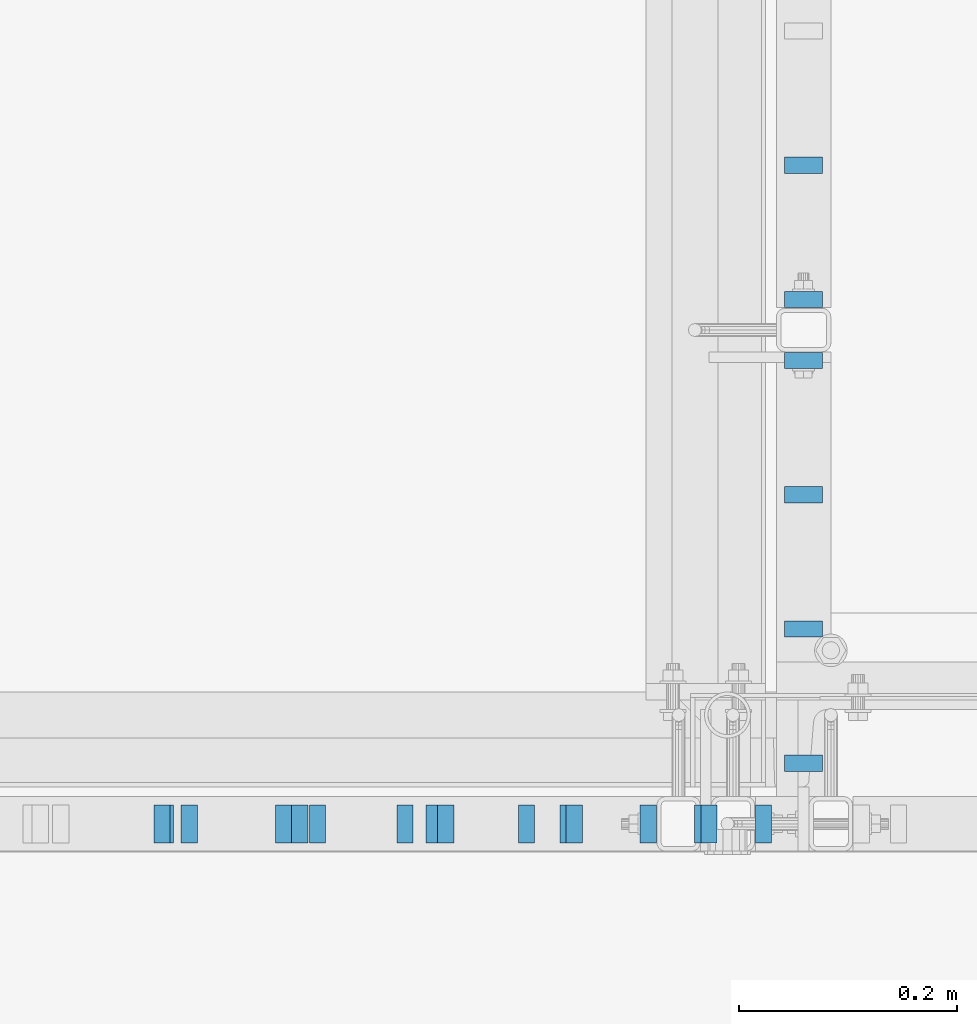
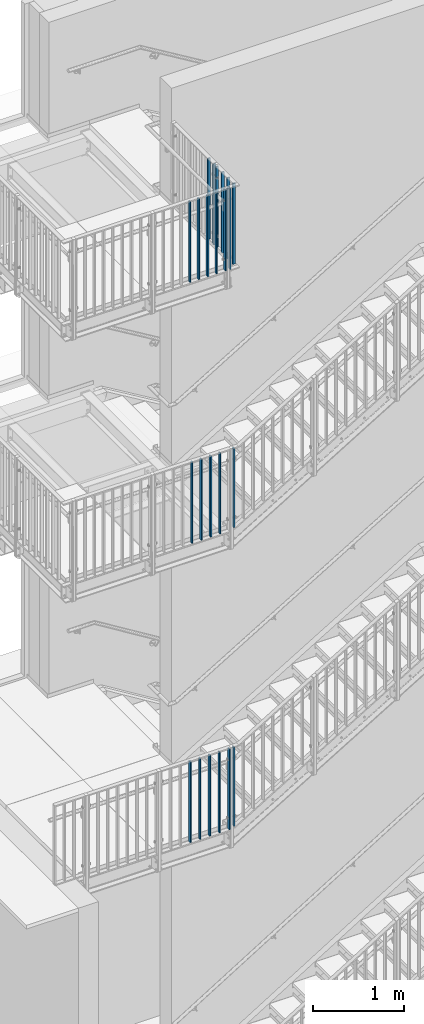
# One storey, part 6 of 410: 23 columns, 14 openings.
"""IFC2X3 building model written with IfcOpenShell, lengths in millimetres."""

from ifc_helpers import new_model, entity, si_unit, converted_unit, frame, frame_2d, origin, origin_with_axes, origin_2d, place, context, project, spatial, rectangle, circle, extrude, material, element, save


model = new_model("IFC2X3")

# Units and contexts
model_context = context("Model", 3, precision=1e-09, world=origin_with_axes())
ifc_project = project(units=[si_unit("LENGTHUNIT", "METRE", prefix="MILLI"), si_unit("AREAUNIT", "SQUARE_METRE"), si_unit("VOLUMEUNIT", "CUBIC_METRE"), converted_unit("PLANEANGLEUNIT", "DEGREE", entity("IfcPlaneAngleMeasure", 0.01745329), si_unit("PLANEANGLEUNIT", "RADIAN"), dimensions=[0, 0, 0, 0, 0, 0, 0])], contexts=[model_context])

# Site, building, storey
site_placement = place(None, origin_with_axes())
site = spatial("IfcSite", under=ifc_project, at=site_placement, Name="mKR Teilneubau & Sanierung BA1 - Ostfildern", CompositionType="ELEMENT")
building_placement = place(site_placement, origin_with_axes())
building = spatial("IfcBuilding", under=site, at=building_placement, Name="Struktur 1", CompositionType="ELEMENT")
storey_placement = place(building_placement, origin_with_axes())
storey = spatial("IfcBuildingStorey", under=building, at=storey_placement, Name="Default Storey", CompositionType="ELEMENT", Elevation=0.0)

# Columns
ifc_material = material(Name="S235JR")
for number, where, z_axis, x_axis in (
    (1, (-1930.99853167, 15405.999999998, 5085.0), (0.0, 0.0, 1.0), (-1.0, 0.0, 0.0)),
    (2, (-2048.99853167, 15405.999999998, 5085.0), (0.0, 0.0, 1.0), (-1.0, 0.0, 0.0)),
    (3, (-2166.99853167, 15405.999999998, 5085.0), (0.0, 0.0, 1.0), (-1.0, 0.0, 0.0)),
    (4, (-2284.99853167, 15405.999999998, 5085.0), (0.0, 0.0, 1.0), (-1.0, 0.0, 0.0)),
):
    element("IfcColumn", number, at=place(None, frame(where, z_axis=z_axis, x_axis=x_axis)), inside=storey, material=ifc_material, Name="-", ObjectType="-", context=model_context, shape_type="SweptSolid", body=[
        extrude(rectangle(XDim=15.0, YDim=35.0, at=origin_2d()), origin(), (0.0, 0.0, -1.0), 1085.0),
    ])

# Column, openings
column_1_placement = place(None, frame((-1862.99853167, 15405.999999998, 8585.0), z_axis=(0.0, 0.0, 1.0), x_axis=(-1.0, 0.0, 0.0)))
column_1 = element("IfcColumn", 5, at=column_1_placement, inside=storey, material=ifc_material, Name="-", ObjectType="-", context=model_context, shape_type="SweptSolid", body=[
    extrude(rectangle(XDim=15.0, YDim=35.0, at=origin_2d()), origin(), (0.0, 0.0, -1.0), 1085.0),
])
opening_1_placement = place(column_1_placement, frame((8.0, 0.0, 10.0), z_axis=(-1.0, 0.0, 0.0), x_axis=(0.0, 1.0, 0.0)))
element("IfcOpeningElement", 6, at=opening_1_placement, cuts=column_1, ObjectType="Opening", context=model_context, shape_type="SweptSolid", body=[
    extrude(circle(Radius=6.001, at=frame_2d((0.0, 945.0), x_axis=(1.0, 0.0))), origin(), (0.0, 0.0, 1.0), 16.0),
])
opening_2_placement = place(column_1_placement, frame((8.0, 0.0, 10.0), z_axis=(-1.0, 0.0, 0.0), x_axis=(0.0, 1.0, 0.0)))
element("IfcOpeningElement", 7, at=opening_2_placement, cuts=column_1, ObjectType="Opening", context=model_context, shape_type="SweptSolid", body=[
    extrude(circle(Radius=6.001, at=frame_2d((0.0, 160.0), x_axis=(1.0, 0.0))), origin(), (0.0, 0.0, 1.0), 16.0),
])

column_2_placement = place(None, frame((-1720.0485317, 15888.0, 7500.0), z_axis=(0.0, 0.0, -1.0), x_axis=(0.0, 1.0, 0.0)))
column_2 = element("IfcColumn", 8, at=column_2_placement, inside=storey, material=ifc_material, Name="-", ObjectType="-", context=model_context, shape_type="SweptSolid", body=[
    extrude(rectangle(XDim=15.0, YDim=35.0, at=origin_2d()), origin(), (0.0, 0.0, -1.0), 1085.0),
])
opening_3_placement = place(column_2_placement, frame((8.0, -6.001, -150.0), z_axis=(1.0, 0.0, 0.0), x_axis=(0.0, 1.0, 0.0)))
element("IfcOpeningElement", 9, at=opening_3_placement, cuts=column_2, ObjectType="Opening", context=model_context, shape_type="SweptSolid", body=[
    extrude(circle(Radius=6.001, at=frame_2d((6.001, 0.0), x_axis=(1.0, 0.0))), origin(), (0.0, 0.0, -1.0), 16.0),
])
opening_4_placement = place(column_2_placement, frame((8.0, -6.001, -935.0), z_axis=(1.0, 0.0, 0.0), x_axis=(0.0, 1.0, 0.0)))
element("IfcOpeningElement", 10, at=opening_4_placement, cuts=column_2, ObjectType="Opening", context=model_context, shape_type="SweptSolid", body=[
    extrude(circle(Radius=6.001, at=frame_2d((6.001, 0.0), x_axis=(1.0, 0.0))), origin(), (0.0, 0.0, -1.0), 16.0),
])

# Column
column_3_placement = place(None, frame((-1720.0485317, 16011.4285714, 7500.0), z_axis=(0.0, 0.0, -1.0), x_axis=(0.0, 1.0, 0.0)))
element("IfcColumn", 11, at=column_3_placement, inside=storey, material=ifc_material, Name="-", ObjectType="-", context=model_context, shape_type="SweptSolid", body=[
    extrude(rectangle(XDim=15.0, YDim=35.0, at=origin_2d()), origin(), (0.0, 0.0, -1.0), 1085.0),
])

# Column, openings
column_4_placement = place(None, frame((-1720.0485317, 15832.0, 7500.0), z_axis=(0.0, 0.0, 1.0), x_axis=(0.0, -1.0, 0.0)))
column_4 = element("IfcColumn", 12, at=column_4_placement, inside=storey, material=ifc_material, Name="-", ObjectType="-", context=model_context, shape_type="SweptSolid", body=[
    extrude(rectangle(XDim=15.0, YDim=35.0, at=origin_2d()), origin(), (0.0, 0.0, 1.0), 1085.0),
])
opening_5_placement = place(column_4_placement, frame((-8.0, -6.001, 150.0), z_axis=(-1.0, 0.0, 0.0), x_axis=(0.0, -1.0, 0.0)))
element("IfcOpeningElement", 13, at=opening_5_placement, cuts=column_4, ObjectType="Opening", context=model_context, shape_type="SweptSolid", body=[
    extrude(circle(Radius=6.001, at=frame_2d((-6.001, 0.0), x_axis=(1.0, 0.0))), origin(), (0.0, 0.0, -1.0), 16.0),
])
opening_6_placement = place(column_4_placement, frame((-8.0, -6.001, 935.0), z_axis=(-1.0, 0.0, 0.0), x_axis=(0.0, -1.0, 0.0)))
element("IfcOpeningElement", 14, at=opening_6_placement, cuts=column_4, ObjectType="Opening", context=model_context, shape_type="SweptSolid", body=[
    extrude(circle(Radius=6.001, at=frame_2d((-6.001, 0.0), x_axis=(1.0, 0.0))), origin(), (0.0, 0.0, -1.0), 16.0),
])

# Columns
for number, where, z_axis, x_axis in (
    (15, (-1720.0485317, 15708.5714286, 7500.0), (0.0, 0.0, 1.0), (0.0, -1.0, 0.0)),
    (16, (-1720.0485317, 15585.1428572, 7500.0), (0.0, 0.0, 1.0), (0.0, -1.0, 0.0)),
    (17, (-1720.0485317, 15461.7142858, 7500.0), (0.0, 0.0, 1.0), (0.0, -1.0, 0.0)),
):
    element("IfcColumn", number, at=place(None, frame(where, z_axis=z_axis, x_axis=x_axis)), inside=storey, material=ifc_material, Name="-", ObjectType="-", context=model_context, shape_type="SweptSolid", body=[
        extrude(rectangle(XDim=15.0, YDim=35.0, at=origin_2d()), origin(), (0.0, 0.0, 1.0), 1085.0),
    ])

# Column, openings
column_5_placement = place(None, frame((-1806.99853167, 15405.999999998, 8585.0), z_axis=(0.0, 0.0, -1.0), x_axis=(1.0, 0.0, 0.0)))
column_5 = element("IfcColumn", 18, at=column_5_placement, inside=storey, material=ifc_material, Name="-", ObjectType="-", context=model_context, shape_type="SweptSolid", body=[
    extrude(rectangle(XDim=15.0, YDim=35.0, at=origin_2d()), origin(), (0.0, 0.0, 1.0), 1085.0),
])
opening_7_placement = place(column_5_placement, frame((-8.0, 0.0, -10.0), z_axis=(1.0, 0.0, 0.0), x_axis=(0.0, 1.0, 0.0)))
element("IfcOpeningElement", 19, at=opening_7_placement, cuts=column_5, ObjectType="Opening", context=model_context, shape_type="SweptSolid", body=[
    extrude(circle(Radius=6.001, at=frame_2d((0.0, 945.0), x_axis=(1.0, 0.0))), origin(), (0.0, 0.0, 1.0), 16.0),
])
opening_8_placement = place(column_5_placement, frame((-8.0, 0.0, -10.0), z_axis=(1.0, 0.0, 0.0), x_axis=(0.0, 1.0, 0.0)))
element("IfcOpeningElement", 20, at=opening_8_placement, cuts=column_5, ObjectType="Opening", context=model_context, shape_type="SweptSolid", body=[
    extrude(circle(Radius=6.001, at=frame_2d((0.0, 160.0), x_axis=(1.0, 0.0))), origin(), (0.0, 0.0, 1.0), 16.0),
])

# Columns
for number, where, z_axis, x_axis in (
    (21, (-2309.99853167, 15405.999999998, 7500.0), (0.0, 0.0, -1.0), (1.0, 0.0, 0.0)),
    (22, (-2198.24853167, 15405.999999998, 7500.0), (0.0, 0.0, -1.0), (1.0, 0.0, 0.0)),
    (23, (-2086.49853167, 15405.999999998, 7500.0), (0.0, 0.0, -1.0), (1.0, 0.0, 0.0)),
    (24, (-1974.74853167, 15405.999999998, 7500.0), (0.0, 0.0, -1.0), (1.0, 0.0, 0.0)),
):
    element("IfcColumn", number, at=place(None, frame(where, z_axis=z_axis, x_axis=x_axis)), inside=storey, material=ifc_material, Name="-", ObjectType="-", context=model_context, shape_type="SweptSolid", body=[
        extrude(rectangle(XDim=15.0, YDim=35.0, at=origin_2d()), origin(), (0.0, 0.0, -1.0), 1085.0),
    ])

# Column, openings
column_6_placement = place(None, frame((-1812.99853167, 15405.999999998, 1085.0), z_axis=(0.0, 0.0, 1.0), x_axis=(-1.0, 0.0, 0.0)))
column_6 = element("IfcColumn", 25, at=column_6_placement, inside=storey, material=ifc_material, Name="-", ObjectType="-", context=model_context, shape_type="SweptSolid", body=[
    extrude(rectangle(XDim=15.0, YDim=35.0, at=origin_2d()), origin(), (0.0, 0.0, -1.0), 1085.0),
])
opening_9_placement = place(column_6_placement, frame((-8.0, -6.001, -935.0), z_axis=(-1.0, 0.0, 0.0), x_axis=(0.0, -1.0, 0.0)))
element("IfcOpeningElement", 26, at=opening_9_placement, cuts=column_6, ObjectType="Opening", context=model_context, shape_type="SweptSolid", body=[
    extrude(circle(Radius=6.001, at=frame_2d((-6.001, 0.0), x_axis=(1.0, 0.0))), origin(), (0.0, 0.0, -1.0), 16.0),
])
opening_10_placement = place(column_6_placement, frame((-8.0, -6.001, -150.0), z_axis=(-1.0, 0.0, 0.0), x_axis=(0.0, -1.0, 0.0)))
element("IfcOpeningElement", 27, at=opening_10_placement, cuts=column_6, ObjectType="Opening", context=model_context, shape_type="SweptSolid", body=[
    extrude(circle(Radius=6.001, at=frame_2d((-6.001, 0.0), x_axis=(1.0, 0.0))), origin(), (0.0, 0.0, -1.0), 16.0),
])

# Columns
for number, where, z_axis, x_axis in (
    (28, (-2306.71281747, 15405.999999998, 0.0), (0.0, 0.0, -1.0), (1.0, 0.0, 0.0)),
    (29, (-2183.28424607, 15405.999999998, 0.0), (0.0, 0.0, -1.0), (1.0, 0.0, 0.0)),
    (30, (-2059.85567467, 15405.999999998, 0.0), (0.0, 0.0, -1.0), (1.0, 0.0, 0.0)),
    (31, (-1936.42710327, 15405.999999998, 0.0), (0.0, 0.0, -1.0), (1.0, 0.0, 0.0)),
):
    element("IfcColumn", number, at=place(None, frame(where, z_axis=z_axis, x_axis=x_axis)), inside=storey, material=ifc_material, Name="-", ObjectType="-", context=model_context, shape_type="SweptSolid", body=[
        extrude(rectangle(XDim=15.0, YDim=35.0, at=origin_2d()), origin(), (0.0, 0.0, -1.0), 1085.0),
    ])

# Column, openings
column_7_placement = place(None, frame((-1756.99853167, 15405.999999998, 5085.0), z_axis=(0.0, 0.0, 1.0), x_axis=(-1.0, 0.0, 0.0)))
column_7 = element("IfcColumn", 32, at=column_7_placement, inside=storey, material=ifc_material, Name="-", ObjectType="-", context=model_context, shape_type="SweptSolid", body=[
    extrude(rectangle(XDim=15.0, YDim=35.0, at=origin_2d()), origin(), (0.0, 0.0, -1.0), 1059.293991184),
])
opening_11_placement = place(column_7_placement, frame((-8.0, -6.001, -935.0), z_axis=(-1.0, 0.0, 0.0), x_axis=(0.0, -1.0, 0.0)))
element("IfcOpeningElement", 33, at=opening_11_placement, cuts=column_7, ObjectType="Opening", context=model_context, shape_type="SweptSolid", body=[
    extrude(circle(Radius=6.001, at=frame_2d((-6.001, 0.0), x_axis=(1.0, 0.0))), origin(), (0.0, 0.0, -1.0), 16.0),
])
opening_12_placement = place(column_7_placement, frame((-8.0, -6.001, -150.0), z_axis=(-1.0, 0.0, 0.0), x_axis=(0.0, -1.0, 0.0)))
element("IfcOpeningElement", 34, at=opening_12_placement, cuts=column_7, ObjectType="Opening", context=model_context, shape_type="SweptSolid", body=[
    extrude(circle(Radius=6.001, at=frame_2d((-6.001, 0.0), x_axis=(1.0, 0.0))), origin(), (0.0, 0.0, -1.0), 16.0),
])

column_8_placement = place(None, frame((-1756.99853167, 15405.999999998, 1085.0), z_axis=(0.0, 0.0, 1.0), x_axis=(-1.0, 0.0, 0.0)))
column_8 = element("IfcColumn", 35, at=column_8_placement, inside=storey, material=ifc_material, Name="-", ObjectType="-", context=model_context, shape_type="SweptSolid", body=[
    extrude(rectangle(XDim=15.0, YDim=35.0, at=origin_2d()), origin(), (0.0, 0.0, -1.0), 1059.214150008),
])
opening_13_placement = place(column_8_placement, frame((-8.0, -6.001, -935.0), z_axis=(-1.0, 0.0, 0.0), x_axis=(0.0, -1.0, 0.0)))
element("IfcOpeningElement", 36, at=opening_13_placement, cuts=column_8, ObjectType="Opening", context=model_context, shape_type="SweptSolid", body=[
    extrude(circle(Radius=6.001, at=frame_2d((-6.001, 0.0), x_axis=(1.0, 0.0))), origin(), (0.0, 0.0, -1.0), 16.0),
])
opening_14_placement = place(column_8_placement, frame((-8.0, -6.001, -150.0), z_axis=(-1.0, 0.0, 0.0), x_axis=(0.0, -1.0, 0.0)))
element("IfcOpeningElement", 37, at=opening_14_placement, cuts=column_8, ObjectType="Opening", context=model_context, shape_type="SweptSolid", body=[
    extrude(circle(Radius=6.001, at=frame_2d((-6.001, 0.0), x_axis=(1.0, 0.0))), origin(), (0.0, 0.0, -1.0), 16.0),
])

save(model, "model.ifc")
